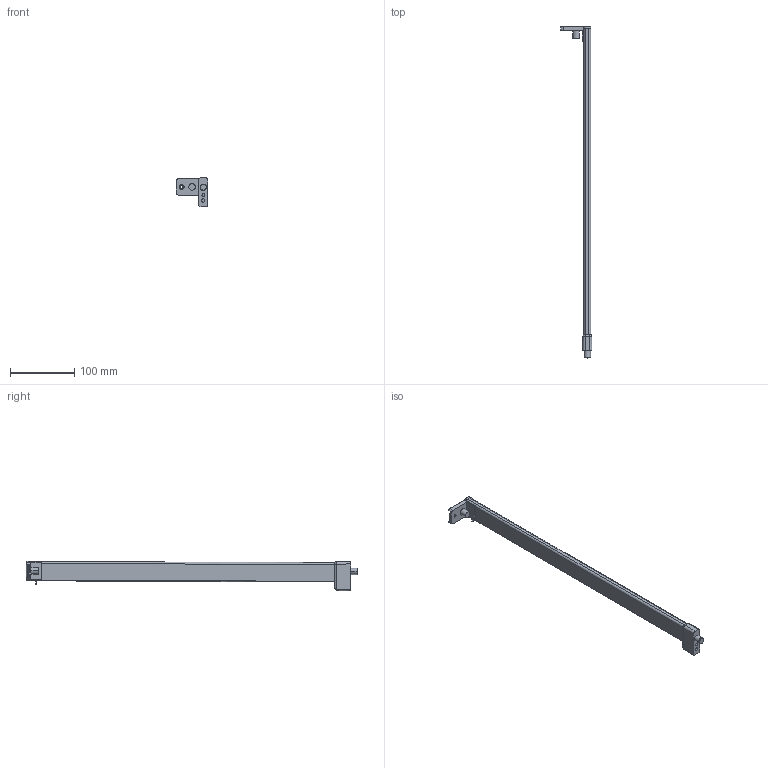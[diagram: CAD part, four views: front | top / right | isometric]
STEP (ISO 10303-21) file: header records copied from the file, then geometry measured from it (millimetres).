
FILE_DESCRIPTION (( 'STEP AP214' ), '1' );
FILE_NAME ('_2S_REL_7606_NL500_RE.step', '2010-07-01T14:41:36', ( 'grass' ), ( '' ), 'SwSTEP 2.0', 'SolidWorks 2009', '' );
FILE_SCHEMA (( 'AUTOMOTIVE_DESIGN' ));
Length unit declared in the file: millimetre
Products named in the file (1): _2S_REL_7606_NL500_RE
Bounding box: 49.25 x 515.5 x 45.4 mm (x, y, z)
Volume: 169594.7 mm3; surface area: 45324.3 mm2
Topology: 2 solids, 2 shells, 120 faces, 292 edges, 178 vertices
Faces by surface type: cylinder 58, plane 40, bspline 10, torus 6, cone 4, sphere 2
Entity records: 4659 total; most frequent: CARTESIAN_POINT 1934, ORIENTED_EDGE 580, DIRECTION 546, EDGE_CURVE 290, AXIS2_PLACEMENT_3D 203, VERTEX_POINT 178, VECTOR 140, LINE 140
